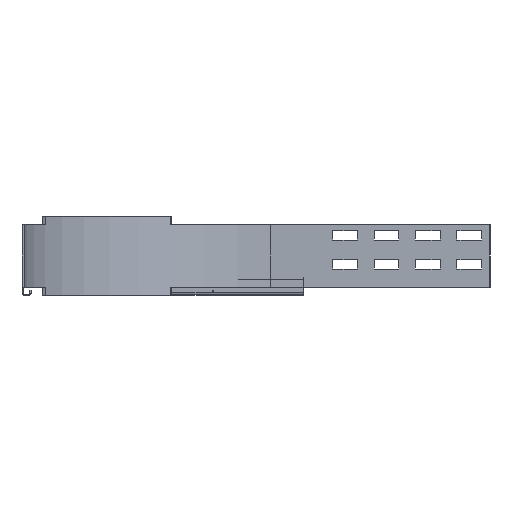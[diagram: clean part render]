
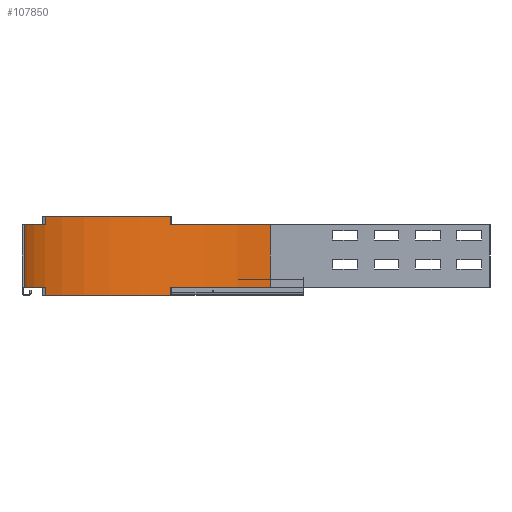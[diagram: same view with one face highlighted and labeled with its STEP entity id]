
A CAD part, left-side view. The second image highlights one B-rep face of the part: STEP entity #107850.
In plain terms, the highlighted cylindrical face has radius 297 mm (diameter 594 mm), a partial arc.
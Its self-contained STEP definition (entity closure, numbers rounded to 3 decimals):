
#85280=CARTESIAN_POINT('',(423.54,-135.435,-50.));
#85290=VERTEX_POINT('',#85280);
#85320=CARTESIAN_POINT('',(247.84,-374.89,-50.));
#85330=DIRECTION('',(0.,0.,1.));
#85340=DIRECTION('',(0.592,0.806,0.));
#85350=AXIS2_PLACEMENT_3D('',#85320,#85330,#85340);
#85360=CIRCLE('',#85350,297.);
#85370=CARTESIAN_POINT('',(214.908,-79.722,-50.));
#85380=VERTEX_POINT('',#85370);
#85390=EDGE_CURVE('',#85290,#85380,#85360,.T.);
#87360=CARTESIAN_POINT('',(504.924,-226.173,-60.));
#87370=VERTEX_POINT('',#87360);
#87420=CARTESIAN_POINT('',(247.84,-374.89,-60.));
#87430=DIRECTION('',(0.,0.,-1.));
#87440=DIRECTION('',(0.592,0.806,0.));
#87450=AXIS2_PLACEMENT_3D('',#87420,#87430,#87440);
#87460=CIRCLE('',#87450,297.);
#87470=CARTESIAN_POINT('',(423.54,-135.435,-60.));
#87480=VERTEX_POINT('',#87470);
#87490=EDGE_CURVE('',#87480,#87370,#87460,.T.);
#87900=CARTESIAN_POINT('',(247.84,-374.89,-145.));
#87910=DIRECTION('',(0.,0.,1.));
#87920=DIRECTION('',(0.592,0.806,0.));
#87930=AXIS2_PLACEMENT_3D('',#87900,#87910,#87920);
#87940=CIRCLE('',#87930,297.);
#87950=CARTESIAN_POINT('',(423.54,-135.435,-145.));
#87960=VERTEX_POINT('',#87950);
#87970=CARTESIAN_POINT('',(214.908,-79.722,-145.));
#87980=VERTEX_POINT('',#87970);
#87990=EDGE_CURVE('',#87960,#87980,#87940,.T.);
#88540=CARTESIAN_POINT('',(99.123,-117.806,-135.));
#88550=VERTEX_POINT('',#88540);
#88580=CARTESIAN_POINT('',(247.84,-374.89,-135.));
#88590=DIRECTION('',(0.,0.,1.));
#88600=DIRECTION('',(-0.111,0.994,0.));
#88610=AXIS2_PLACEMENT_3D('',#88580,#88590,#88600);
#88620=CIRCLE('',#88610,297.);
#88630=CARTESIAN_POINT('',(214.908,-79.722,-135.));
#88640=VERTEX_POINT('',#88630);
#88650=EDGE_CURVE('',#88640,#88550,#88620,.T.);
#95570=CARTESIAN_POINT('',(99.123,-117.806,-60.));
#95580=VERTEX_POINT('',#95570);
#95730=CARTESIAN_POINT('',(214.908,-79.722,-60.));
#95740=VERTEX_POINT('',#95730);
#95770=CARTESIAN_POINT('',(247.84,-374.89,-60.));
#95780=DIRECTION('',(0.,0.,-1.));
#95790=DIRECTION('',(-0.501,0.866,0.));
#95800=AXIS2_PLACEMENT_3D('',#95770,#95780,#95790);
#95810=CIRCLE('',#95800,297.);
#95820=EDGE_CURVE('',#95580,#95740,#95810,.T.);
#98600=CARTESIAN_POINT('',(504.924,-226.173,-135.));
#98610=VERTEX_POINT('',#98600);
#98640=CARTESIAN_POINT('',(504.924,-226.173,0.));
#98650=DIRECTION('',(0.,0.,1.));
#98660=VECTOR('',#98650,1.);
#98670=LINE('',#98640,#98660);
#98680=EDGE_CURVE('',#98610,#87370,#98670,.T.);
#104970=CARTESIAN_POINT('',(423.54,-135.435,-50.));
#104980=DIRECTION('',(0.,0.,-1.));
#104990=VECTOR('',#104980,1.);
#105000=LINE('',#104970,#104990);
#105010=EDGE_CURVE('',#85290,#87480,#105000,.T.);
#105140=CARTESIAN_POINT('',(214.908,-79.722,-135.));
#105150=DIRECTION('',(0.,0.,-1.));
#105160=VECTOR('',#105150,1.);
#105170=LINE('',#105140,#105160);
#105180=EDGE_CURVE('',#88640,#87980,#105170,.T.);
#105310=CARTESIAN_POINT('',(214.908,-79.722,-50.));
#105320=DIRECTION('',(0.,0.,-1.));
#105330=VECTOR('',#105320,1.);
#105340=LINE('',#105310,#105330);
#105350=EDGE_CURVE('',#85380,#95740,#105340,.T.);
#106570=CARTESIAN_POINT('',(99.123,-117.806,0.));
#106580=DIRECTION('',(0.,0.,-1.));
#106590=VECTOR('',#106580,1.);
#106600=LINE('',#106570,#106590);
#106610=EDGE_CURVE('',#95580,#88550,#106600,.T.);
#107530=CARTESIAN_POINT('',(247.84,-374.89,-60.));
#107540=DIRECTION('',(0.,0.,1.));
#107550=DIRECTION('',(1.,0.,0.));
#107560=AXIS2_PLACEMENT_3D('',#107530,#107540,#107550);
#107570=CYLINDRICAL_SURFACE('',#107560,297.);
#107580=ORIENTED_EDGE('',*,*,#88650,.F.);
#107590=ORIENTED_EDGE('',*,*,#106610,.T.);
#107600=ORIENTED_EDGE('',*,*,#95820,.F.);
#107610=ORIENTED_EDGE('',*,*,#105350,.T.);
#107620=ORIENTED_EDGE('',*,*,#85390,.T.);
#107630=ORIENTED_EDGE('',*,*,#105010,.F.);
#107640=ORIENTED_EDGE('',*,*,#87490,.F.);
#107650=ORIENTED_EDGE('',*,*,#98680,.T.);
#107660=CARTESIAN_POINT('',(247.84,-374.89,-135.));
#107670=DIRECTION('',(0.,0.,1.));
#107680=DIRECTION('',(0.866,0.501,0.));
#107690=AXIS2_PLACEMENT_3D('',#107660,#107670,#107680);
#107700=CIRCLE('',#107690,297.);
#107710=CARTESIAN_POINT('',(423.54,-135.435,-135.));
#107720=VERTEX_POINT('',#107710);
#107730=EDGE_CURVE('',#98610,#107720,#107700,.T.);
#107740=ORIENTED_EDGE('',*,*,#107730,.F.);
#107750=CARTESIAN_POINT('',(423.54,-135.435,-135.));
#107760=DIRECTION('',(0.,0.,-1.));
#107770=VECTOR('',#107760,1.);
#107780=LINE('',#107750,#107770);
#107790=EDGE_CURVE('',#107720,#87960,#107780,.T.);
#107800=ORIENTED_EDGE('',*,*,#107790,.F.);
#107810=ORIENTED_EDGE('',*,*,#87990,.F.);
#107820=ORIENTED_EDGE('',*,*,#105180,.T.);
#107830=EDGE_LOOP('',(#107820,#107810,#107800,#107740,#107650,#107640,
#107630,#107620,#107610,#107600,#107590,#107580));
#107840=FACE_OUTER_BOUND('',#107830,.T.);
#107850=ADVANCED_FACE('',(#107840),#107570,.F.);
